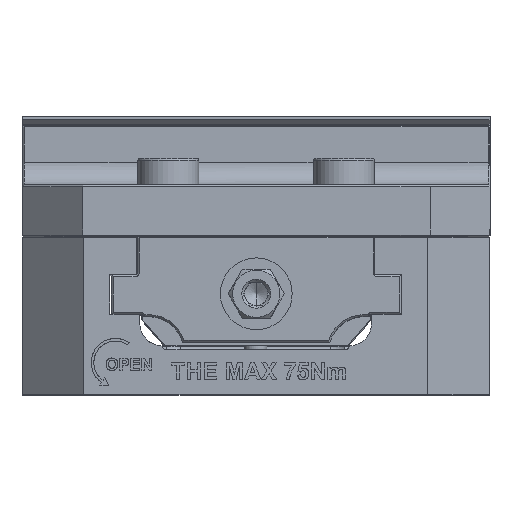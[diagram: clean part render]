
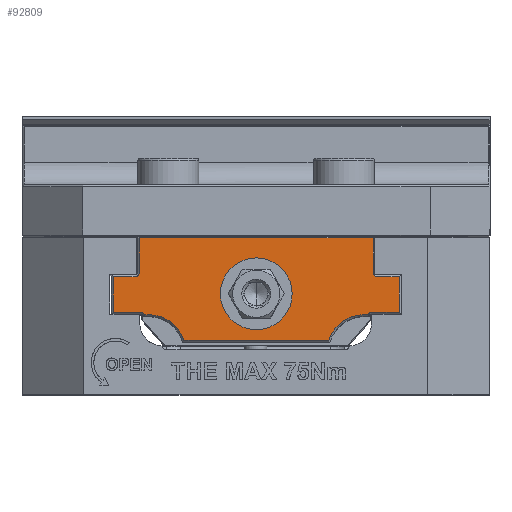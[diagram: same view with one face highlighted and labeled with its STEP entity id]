
A CAD part, top view. The second image highlights one B-rep face of the part: STEP entity #92809.
In plain terms, the highlighted planar face has unit normal (0, 0, 1) as drawn and (0, 0, -1) by its records, which use the part's own axes.
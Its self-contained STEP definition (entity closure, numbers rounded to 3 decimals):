
#91512=CARTESIAN_POINT('',(0.,-14.745,0.08));
#91513=DIRECTION('',(0.,0.,-1.));
#91514=DIRECTION('',(1.,0.,0.));
#91515=AXIS2_PLACEMENT_3D('',#91512,#91513,#91514);
#91517=CARTESIAN_POINT('',(0.,-14.745,0.08));
#91518=DIRECTION('',(0.,0.,-1.));
#91519=DIRECTION('',(-1.,0.,0.));
#91520=AXIS2_PLACEMENT_3D('',#91517,#91518,#91519);
#91522=CARTESIAN_POINT('',(28.851,-30.336,
0.08));
#91523=DIRECTION('',(0.,0.,-1.));
#91524=DIRECTION('',(-0.949,0.314,0.));
#91525=AXIS2_PLACEMENT_3D('',#91522,#91523,#91524);
#91527=DIRECTION('',(1.,0.,0.));
#91528=VECTOR('',#91527,1.264);
#91529=CARTESIAN_POINT('',(28.561,-20.315,0.08));
#91530=LINE('',#91529,#91528);
#91531=CARTESIAN_POINT('',(30.853,-20.83,0.08));
#91532=DIRECTION('',(0.,0.,-1.));
#91533=DIRECTION('',(-0.894,0.447,0.));
#91534=AXIS2_PLACEMENT_3D('',#91531,#91532,#91533);
#91536=DIRECTION('',(-1.,0.,0.));
#91537=VECTOR('',#91536,5.85);
#91538=CARTESIAN_POINT('',(38.25,-10.18,0.08));
#91539=LINE('',#91538,#91537);
#91540=CARTESIAN_POINT('',(32.4,-9.03,0.08));
#91541=DIRECTION('',(0.,0.,-1.));
#91542=DIRECTION('',(0.,-1.,0.));
#91543=AXIS2_PLACEMENT_3D('',#91540,#91541,#91542);
#91545=DIRECTION('',(0.,1.,0.));
#91546=VECTOR('',#91545,9.295);
#91547=CARTESIAN_POINT('',(31.25,-9.03,
0.08));
#91548=LINE('',#91547,#91546);
#91549=CARTESIAN_POINT('',(-32.4,-9.034,0.08));
#91550=DIRECTION('',(0.,0.,-1.));
#91551=DIRECTION('',(1.,0.,0.));
#91552=AXIS2_PLACEMENT_3D('',#91549,#91550,#91551);
#91554=DIRECTION('',(-1.,0.,0.));
#91555=VECTOR('',#91554,5.85);
#91556=CARTESIAN_POINT('',(-32.4,-10.184,
0.08));
#91557=LINE('',#91556,#91555);
#91558=DIRECTION('',(0.,-1.,0.));
#91559=VECTOR('',#91558,9.496);
#91560=CARTESIAN_POINT('',(-38.25,-10.184,0.08));
#91561=LINE('',#91560,#91559);
#91562=DIRECTION('',(1.,0.,0.));
#91563=VECTOR('',#91562,7.396);
#91564=CARTESIAN_POINT('',(-38.25,-19.68,0.08));
#91565=LINE('',#91564,#91563);
#91566=CARTESIAN_POINT('',(-30.853,-20.83,0.08));
#91567=DIRECTION('',(0.,0.,-1.));
#91568=DIRECTION('',(0.,1.,0.));
#91569=AXIS2_PLACEMENT_3D('',#91566,#91567,#91568);
#91571=CARTESIAN_POINT('',(-28.851,-30.336,
0.08));
#91572=DIRECTION('',(0.,0.,-1.));
#91573=DIRECTION('',(0.029,1.,0.));
#91574=AXIS2_PLACEMENT_3D('',#91571,#91572,#91573);
#91756=DIRECTION('',(0.,-1.,0.));
#91757=VECTOR('',#91756,9.5);
#91758=CARTESIAN_POINT('',(38.25,-10.18,0.08));
#91759=LINE('',#91758,#91757);
#91760=DIRECTION('',(-1.,0.,0.));
#91761=VECTOR('',#91760,7.397);
#91762=CARTESIAN_POINT('',(38.25,-19.68,0.08));
#91763=LINE('',#91762,#91761);
#91800=DIRECTION('',(-1.,0.,0.));
#91801=VECTOR('',#91800,38.668);
#91802=CARTESIAN_POINT('',(19.334,-27.184,0.08));
#91803=LINE('',#91802,#91801);
#91835=DIRECTION('',(-1.,0.,0.));
#91836=VECTOR('',#91835,1.264);
#91837=CARTESIAN_POINT('',(-28.561,-20.315,0.08));
#91838=LINE('',#91837,#91836);
#92017=DIRECTION('',(0.,1.,0.));
#92018=VECTOR('',#92017,9.3);
#92019=CARTESIAN_POINT('',(-31.25,-9.034,
0.08));
#92020=LINE('',#92019,#92018);
#92157=DIRECTION('',(1.,0.,0.));
#92158=VECTOR('',#92157,62.499);
#92159=CARTESIAN_POINT('',(-31.25,0.266,0.08));
#92160=LINE('',#92159,#92158);
#92488=CARTESIAN_POINT('',(19.334,-27.184,0.08));
#92489=CARTESIAN_POINT('',(28.561,-20.315,0.08));
#92490=VERTEX_POINT('',#92488);
#92491=VERTEX_POINT('',#92489);
#92492=CARTESIAN_POINT('',(29.825,-20.315,
0.08));
#92493=VERTEX_POINT('',#92492);
#92494=CARTESIAN_POINT('',(30.853,-19.68,0.08));
#92495=VERTEX_POINT('',#92494);
#92496=CARTESIAN_POINT('',(38.25,-19.68,0.08));
#92497=VERTEX_POINT('',#92496);
#92498=CARTESIAN_POINT('',(38.25,-10.18,0.08));
#92499=VERTEX_POINT('',#92498);
#92500=CARTESIAN_POINT('',(32.4,-10.18,
0.08));
#92501=VERTEX_POINT('',#92500);
#92502=CARTESIAN_POINT('',(31.25,-9.03,0.08));
#92503=VERTEX_POINT('',#92502);
#92504=CARTESIAN_POINT('',(31.25,0.266,0.08));
#92505=VERTEX_POINT('',#92504);
#92506=CARTESIAN_POINT('',(-31.25,0.266,0.08));
#92507=VERTEX_POINT('',#92506);
#92508=CARTESIAN_POINT('',(-31.25,-9.034,
0.08));
#92509=VERTEX_POINT('',#92508);
#92510=CARTESIAN_POINT('',(-32.4,-10.184,0.08));
#92511=VERTEX_POINT('',#92510);
#92512=CARTESIAN_POINT('',(-38.25,-10.184,0.08));
#92513=VERTEX_POINT('',#92512);
#92514=CARTESIAN_POINT('',(-38.25,-19.68,0.08));
#92515=VERTEX_POINT('',#92514);
#92516=CARTESIAN_POINT('',(-30.854,-19.68,
0.08));
#92517=VERTEX_POINT('',#92516);
#92518=CARTESIAN_POINT('',(-29.825,-20.315,
0.08));
#92519=VERTEX_POINT('',#92518);
#92520=CARTESIAN_POINT('',(-28.561,-20.315,0.08));
#92521=VERTEX_POINT('',#92520);
#92522=CARTESIAN_POINT('',(-19.334,-27.184,0.08));
#92523=VERTEX_POINT('',#92522);
#92756=CARTESIAN_POINT('',(8.538,-14.745,0.08));
#92757=CARTESIAN_POINT('',(-8.538,-14.745,0.08));
#92758=VERTEX_POINT('',#92756);
#92759=VERTEX_POINT('',#92757);
#92760=CARTESIAN_POINT('',(-28.851,-30.336,0.08));
#92761=DIRECTION('',(0.,0.,-1.));
#92762=DIRECTION('',(-1.,0.,0.));
#92763=AXIS2_PLACEMENT_3D('',#92760,#92761,#92762);
#92764=PLANE('',#92763);
#92766=ORIENTED_EDGE('',*,*,#92765,.F.);
#92768=ORIENTED_EDGE('',*,*,#92767,.T.);
#92770=ORIENTED_EDGE('',*,*,#92769,.T.);
#92772=ORIENTED_EDGE('',*,*,#92771,.T.);
#92774=ORIENTED_EDGE('',*,*,#92773,.F.);
#92776=ORIENTED_EDGE('',*,*,#92775,.F.);
#92778=ORIENTED_EDGE('',*,*,#92777,.T.);
#92780=ORIENTED_EDGE('',*,*,#92779,.T.);
#92782=ORIENTED_EDGE('',*,*,#92781,.T.);
#92784=ORIENTED_EDGE('',*,*,#92783,.F.);
#92786=ORIENTED_EDGE('',*,*,#92785,.F.);
#92788=ORIENTED_EDGE('',*,*,#92787,.T.);
#92790=ORIENTED_EDGE('',*,*,#92789,.T.);
#92792=ORIENTED_EDGE('',*,*,#92791,.T.);
#92794=ORIENTED_EDGE('',*,*,#92793,.T.);
#92796=ORIENTED_EDGE('',*,*,#92795,.T.);
#92798=ORIENTED_EDGE('',*,*,#92797,.F.);
#92800=ORIENTED_EDGE('',*,*,#92799,.T.);
#92801=EDGE_LOOP('',(#92766,#92768,#92770,#92772,#92774,#92776,#92778,#92780,
#92782,#92784,#92786,#92788,#92790,#92792,#92794,#92796,#92798,#92800));
#92802=FACE_OUTER_BOUND('',#92801,.F.);
#92804=ORIENTED_EDGE('',*,*,#92803,.T.);
#92806=ORIENTED_EDGE('',*,*,#92805,.T.);
#92807=EDGE_LOOP('',(#92804,#92806));
#92808=FACE_BOUND('',#92807,.F.);
#92809=ADVANCED_FACE('',(#92802,#92808),#92764,.T.);
#91516=CIRCLE('',#91515,8.538);
#91521=CIRCLE('',#91520,8.538);
#91526=CIRCLE('',#91525,10.025);
#91535=CIRCLE('',#91534,1.15);
#91544=CIRCLE('',#91543,1.15);
#91553=CIRCLE('',#91552,1.15);
#91570=CIRCLE('',#91569,1.15);
#91575=CIRCLE('',#91574,10.025);
#92765=EDGE_CURVE('',#92490,#92523,#91803,.T.);
#92767=EDGE_CURVE('',#92490,#92491,#91526,.T.);
#92769=EDGE_CURVE('',#92491,#92493,#91530,.T.);
#92771=EDGE_CURVE('',#92493,#92495,#91535,.T.);
#92773=EDGE_CURVE('',#92497,#92495,#91763,.T.);
#92775=EDGE_CURVE('',#92499,#92497,#91759,.T.);
#92777=EDGE_CURVE('',#92499,#92501,#91539,.T.);
#92779=EDGE_CURVE('',#92501,#92503,#91544,.T.);
#92781=EDGE_CURVE('',#92503,#92505,#91548,.T.);
#92783=EDGE_CURVE('',#92507,#92505,#92160,.T.);
#92785=EDGE_CURVE('',#92509,#92507,#92020,.T.);
#92787=EDGE_CURVE('',#92509,#92511,#91553,.T.);
#92789=EDGE_CURVE('',#92511,#92513,#91557,.T.);
#92791=EDGE_CURVE('',#92513,#92515,#91561,.T.);
#92793=EDGE_CURVE('',#92515,#92517,#91565,.T.);
#92795=EDGE_CURVE('',#92517,#92519,#91570,.T.);
#92797=EDGE_CURVE('',#92521,#92519,#91838,.T.);
#92799=EDGE_CURVE('',#92521,#92523,#91575,.T.);
#92803=EDGE_CURVE('',#92758,#92759,#91516,.T.);
#92805=EDGE_CURVE('',#92759,#92758,#91521,.T.);
